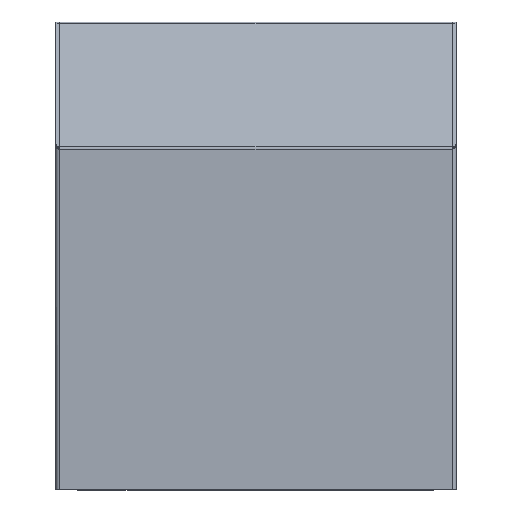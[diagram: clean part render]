
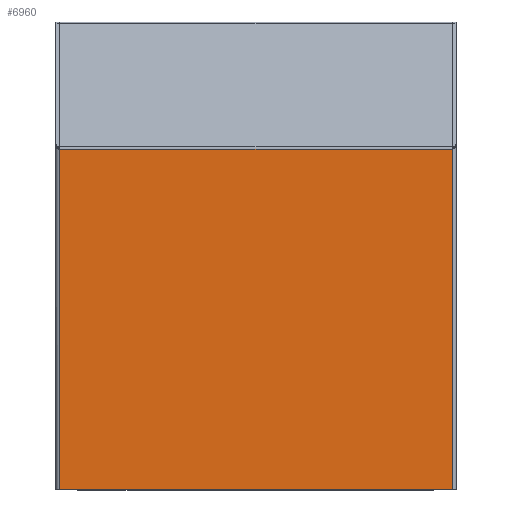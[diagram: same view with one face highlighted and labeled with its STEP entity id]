
A CAD part, top view. The second image highlights one B-rep face of the part: STEP entity #6960.
In plain terms, the highlighted planar face has unit normal (0, 0, 1) as drawn and (0, 0, -1) by its records, which use the part's own axes.
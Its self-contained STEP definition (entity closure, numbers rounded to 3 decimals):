
#637 = CARTESIAN_POINT ( 'NONE',  ( 273.37, 0., -88.9 ) ) ;
#697 = CARTESIAN_POINT ( 'NONE',  ( 2.63, 323.325, -88.9 ) ) ;
#833 = VECTOR ( 'NONE', #6581, 1000. ) ;
#872 = FACE_OUTER_BOUND ( 'NONE', #9173, .T. ) ;
#1087 = CARTESIAN_POINT ( 'NONE',  ( 0., 0., -88.9 ) ) ;
#1384 = ORIENTED_EDGE ( 'NONE', *, *, #5670, .F. ) ;
#1612 = DIRECTION ( 'NONE',  ( 1., 0., 0. ) ) ;
#1678 = EDGE_CURVE ( 'NONE', #6367, #3278, #5145, .T. ) ;
#2194 = PLANE ( 'NONE',  #4116 ) ;
#2854 = VECTOR ( 'NONE', #1612, 1000. ) ;
#3025 = EDGE_CURVE ( 'NONE', #7119, #10391, #8995, .T. ) ;
#3278 = VERTEX_POINT ( 'NONE', #637 ) ;
#4116 = AXIS2_PLACEMENT_3D ( 'NONE', #8237, #5631, #9089 ) ;
#4273 = VECTOR ( 'NONE', #5861, 1000. ) ;
#4578 = CARTESIAN_POINT ( 'NONE',  ( 2.63, 234.425, -88.9 ) ) ;
#5145 = LINE ( 'NONE', #1087, #2854 ) ;
#5631 = DIRECTION ( 'NONE',  ( 0., 0., -1. ) ) ;
#5670 = EDGE_CURVE ( 'NONE', #7119, #6367, #6611, .T. ) ;
#5861 = DIRECTION ( 'NONE',  ( 0., -1., 0. ) ) ;
#6169 = CARTESIAN_POINT ( 'NONE',  ( 2.63, 0., -88.9 ) ) ;
#6238 = CARTESIAN_POINT ( 'NONE',  ( 273.37, 234.425, -88.9 ) ) ;
#6367 = VERTEX_POINT ( 'NONE', #6169 ) ;
#6581 = DIRECTION ( 'NONE',  ( 0., -1., 0. ) ) ;
#6611 = LINE ( 'NONE', #697, #4273 ) ;
#6917 = DIRECTION ( 'NONE',  ( 1., 0., 0. ) ) ;
#6947 = CARTESIAN_POINT ( 'NONE',  ( 0., 234.425, -88.9 ) ) ;
#6960 = ADVANCED_FACE ( 'NONE', ( #872 ), #2194, .T. ) ;
#7119 = VERTEX_POINT ( 'NONE', #4578 ) ;
#7629 = ORIENTED_EDGE ( 'NONE', *, *, #3025, .T. ) ;
#8086 = EDGE_CURVE ( 'NONE', #10391, #3278, #9984, .T. ) ;
#8237 = CARTESIAN_POINT ( 'NONE',  ( 0., 323.325, -88.9 ) ) ;
#8880 = ORIENTED_EDGE ( 'NONE', *, *, #8086, .T. ) ;
#8995 = LINE ( 'NONE', #6947, #9542 ) ;
#9089 = DIRECTION ( 'NONE',  ( -1., 0., 0. ) ) ;
#9173 = EDGE_LOOP ( 'NONE', ( #1384, #7629, #8880, #9416 ) ) ;
#9416 = ORIENTED_EDGE ( 'NONE', *, *, #1678, .F. ) ;
#9542 = VECTOR ( 'NONE', #6917, 1000. ) ;
#9902 = CARTESIAN_POINT ( 'NONE',  ( 273.37, 323.325, -88.9 ) ) ;
#9984 = LINE ( 'NONE', #9902, #833 ) ;
#10391 = VERTEX_POINT ( 'NONE', #6238 ) ;
